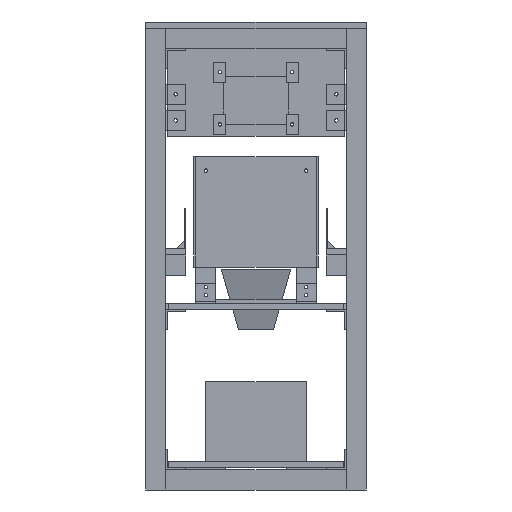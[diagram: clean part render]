
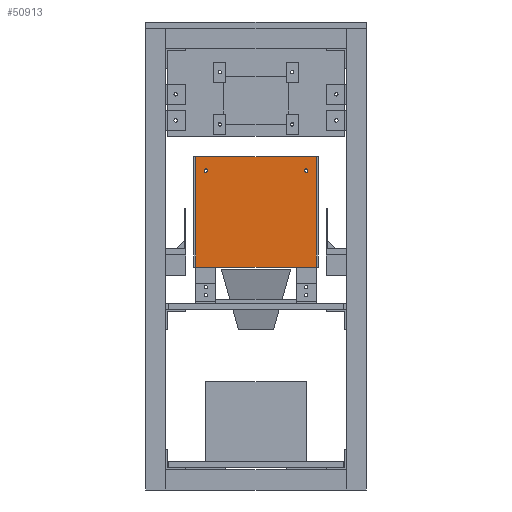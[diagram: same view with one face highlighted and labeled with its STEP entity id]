
A CAD part, front view. The second image highlights one B-rep face of the part: STEP entity #50913.
In plain terms, the highlighted planar face has unit normal (0, -1, 0).
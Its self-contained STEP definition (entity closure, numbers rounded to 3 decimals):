
#50797 = EDGE_CURVE('',#50798,#50800,#50802,.T.);
#50798 = VERTEX_POINT('',#50799);
#50799 = CARTESIAN_POINT('',(50.,44.,222.));
#50800 = VERTEX_POINT('',#50801);
#50801 = CARTESIAN_POINT('',(50.,44.,332.));
#50802 = SURFACE_CURVE('',#50803,(#50807,#50819),.PCURVE_S1.);
#50803 = LINE('',#50804,#50805);
#50804 = CARTESIAN_POINT('',(50.,44.,222.));
#50805 = VECTOR('',#50806,1.);
#50806 = DIRECTION('',(0.,0.,1.));
#50807 = PCURVE('',#50808,#50813);
#50808 = PLANE('',#50809);
#50809 = AXIS2_PLACEMENT_3D('',#50810,#50811,#50812);
#50810 = CARTESIAN_POINT('',(50.,44.,222.));
#50811 = DIRECTION('',(1.,0.,0.));
#50812 = DIRECTION('',(0.,0.,1.));
#50813 = DEFINITIONAL_REPRESENTATION('',(#50814),#50818);
#50814 = LINE('',#50815,#50816);
#50815 = CARTESIAN_POINT('',(0.,0.));
#50816 = VECTOR('',#50817,1.);
#50817 = DIRECTION('',(1.,0.));
#50818 = ( GEOMETRIC_REPRESENTATION_CONTEXT(2) 
PARAMETRIC_REPRESENTATION_CONTEXT() REPRESENTATION_CONTEXT('2D SPACE',''
  ) );
#50819 = PCURVE('',#50820,#50825);
#50820 = PLANE('',#50821);
#50821 = AXIS2_PLACEMENT_3D('',#50822,#50823,#50824);
#50822 = CARTESIAN_POINT('',(50.,44.,222.));
#50823 = DIRECTION('',(0.,1.,0.));
#50824 = DIRECTION('',(0.,0.,1.));
#50825 = DEFINITIONAL_REPRESENTATION('',(#50826),#50830);
#50826 = LINE('',#50827,#50828);
#50827 = CARTESIAN_POINT('',(0.,0.));
#50828 = VECTOR('',#50829,1.);
#50829 = DIRECTION('',(1.,0.));
#50830 = ( GEOMETRIC_REPRESENTATION_CONTEXT(2) 
PARAMETRIC_REPRESENTATION_CONTEXT() REPRESENTATION_CONTEXT('2D SPACE',''
  ) );
#50848 = PLANE('',#50849);
#50849 = AXIS2_PLACEMENT_3D('',#50850,#50851,#50852);
#50850 = CARTESIAN_POINT('',(50.,44.,222.));
#50851 = DIRECTION('',(0.,0.,1.));
#50852 = DIRECTION('',(1.,0.,0.));
#50902 = PLANE('',#50903);
#50903 = AXIS2_PLACEMENT_3D('',#50904,#50905,#50906);
#50904 = CARTESIAN_POINT('',(50.,44.,332.));
#50905 = DIRECTION('',(0.,0.,1.));
#50906 = DIRECTION('',(1.,0.,0.));
#50913 = ADVANCED_FACE('',(#50914,#50989,#51020),#50820,.F.);
#50914 = FACE_BOUND('',#50915,.F.);
#50915 = EDGE_LOOP('',(#50916,#50939,#50940,#50963));
#50916 = ORIENTED_EDGE('',*,*,#50917,.F.);
#50917 = EDGE_CURVE('',#50798,#50918,#50920,.T.);
#50918 = VERTEX_POINT('',#50919);
#50919 = CARTESIAN_POINT('',(170.,44.,222.));
#50920 = SURFACE_CURVE('',#50921,(#50925,#50932),.PCURVE_S1.);
#50921 = LINE('',#50922,#50923);
#50922 = CARTESIAN_POINT('',(50.,44.,222.));
#50923 = VECTOR('',#50924,1.);
#50924 = DIRECTION('',(1.,0.,0.));
#50925 = PCURVE('',#50820,#50926);
#50926 = DEFINITIONAL_REPRESENTATION('',(#50927),#50931);
#50927 = LINE('',#50928,#50929);
#50928 = CARTESIAN_POINT('',(0.,0.));
#50929 = VECTOR('',#50930,1.);
#50930 = DIRECTION('',(0.,1.));
#50931 = ( GEOMETRIC_REPRESENTATION_CONTEXT(2) 
PARAMETRIC_REPRESENTATION_CONTEXT() REPRESENTATION_CONTEXT('2D SPACE',''
  ) );
#50932 = PCURVE('',#50848,#50933);
#50933 = DEFINITIONAL_REPRESENTATION('',(#50934),#50938);
#50934 = LINE('',#50935,#50936);
#50935 = CARTESIAN_POINT('',(0.,0.));
#50936 = VECTOR('',#50937,1.);
#50937 = DIRECTION('',(1.,0.));
#50938 = ( GEOMETRIC_REPRESENTATION_CONTEXT(2) 
PARAMETRIC_REPRESENTATION_CONTEXT() REPRESENTATION_CONTEXT('2D SPACE',''
  ) );
#50939 = ORIENTED_EDGE('',*,*,#50797,.T.);
#50940 = ORIENTED_EDGE('',*,*,#50941,.T.);
#50941 = EDGE_CURVE('',#50800,#50942,#50944,.T.);
#50942 = VERTEX_POINT('',#50943);
#50943 = CARTESIAN_POINT('',(170.,44.,332.));
#50944 = SURFACE_CURVE('',#50945,(#50949,#50956),.PCURVE_S1.);
#50945 = LINE('',#50946,#50947);
#50946 = CARTESIAN_POINT('',(50.,44.,332.));
#50947 = VECTOR('',#50948,1.);
#50948 = DIRECTION('',(1.,0.,0.));
#50949 = PCURVE('',#50820,#50950);
#50950 = DEFINITIONAL_REPRESENTATION('',(#50951),#50955);
#50951 = LINE('',#50952,#50953);
#50952 = CARTESIAN_POINT('',(110.,0.));
#50953 = VECTOR('',#50954,1.);
#50954 = DIRECTION('',(0.,1.));
#50955 = ( GEOMETRIC_REPRESENTATION_CONTEXT(2) 
PARAMETRIC_REPRESENTATION_CONTEXT() REPRESENTATION_CONTEXT('2D SPACE',''
  ) );
#50956 = PCURVE('',#50902,#50957);
#50957 = DEFINITIONAL_REPRESENTATION('',(#50958),#50962);
#50958 = LINE('',#50959,#50960);
#50959 = CARTESIAN_POINT('',(0.,0.));
#50960 = VECTOR('',#50961,1.);
#50961 = DIRECTION('',(1.,0.));
#50962 = ( GEOMETRIC_REPRESENTATION_CONTEXT(2) 
PARAMETRIC_REPRESENTATION_CONTEXT() REPRESENTATION_CONTEXT('2D SPACE',''
  ) );
#50963 = ORIENTED_EDGE('',*,*,#50964,.F.);
#50964 = EDGE_CURVE('',#50918,#50942,#50965,.T.);
#50965 = SURFACE_CURVE('',#50966,(#50970,#50977),.PCURVE_S1.);
#50966 = LINE('',#50967,#50968);
#50967 = CARTESIAN_POINT('',(170.,44.,222.));
#50968 = VECTOR('',#50969,1.);
#50969 = DIRECTION('',(0.,0.,1.));
#50970 = PCURVE('',#50820,#50971);
#50971 = DEFINITIONAL_REPRESENTATION('',(#50972),#50976);
#50972 = LINE('',#50973,#50974);
#50973 = CARTESIAN_POINT('',(0.,120.));
#50974 = VECTOR('',#50975,1.);
#50975 = DIRECTION('',(1.,0.));
#50976 = ( GEOMETRIC_REPRESENTATION_CONTEXT(2) 
PARAMETRIC_REPRESENTATION_CONTEXT() REPRESENTATION_CONTEXT('2D SPACE',''
  ) );
#50977 = PCURVE('',#50978,#50983);
#50978 = PLANE('',#50979);
#50979 = AXIS2_PLACEMENT_3D('',#50980,#50981,#50982);
#50980 = CARTESIAN_POINT('',(170.,44.,222.));
#50981 = DIRECTION('',(1.,0.,0.));
#50982 = DIRECTION('',(0.,0.,1.));
#50983 = DEFINITIONAL_REPRESENTATION('',(#50984),#50988);
#50984 = LINE('',#50985,#50986);
#50985 = CARTESIAN_POINT('',(0.,0.));
#50986 = VECTOR('',#50987,1.);
#50987 = DIRECTION('',(1.,0.));
#50988 = ( GEOMETRIC_REPRESENTATION_CONTEXT(2) 
PARAMETRIC_REPRESENTATION_CONTEXT() REPRESENTATION_CONTEXT('2D SPACE',''
  ) );
#50989 = FACE_BOUND('',#50990,.F.);
#50990 = EDGE_LOOP('',(#50991));
#50991 = ORIENTED_EDGE('',*,*,#50992,.F.);
#50992 = EDGE_CURVE('',#50993,#50993,#50995,.T.);
#50993 = VERTEX_POINT('',#50994);
#50994 = CARTESIAN_POINT('',(60.,44.,319.7));
#50995 = SURFACE_CURVE('',#50996,(#51001,#51008),.PCURVE_S1.);
#50996 = CIRCLE('',#50997,1.7);
#50997 = AXIS2_PLACEMENT_3D('',#50998,#50999,#51000);
#50998 = CARTESIAN_POINT('',(60.,44.,318.));
#50999 = DIRECTION('',(0.,1.,0.));
#51000 = DIRECTION('',(0.,-0.,1.));
#51001 = PCURVE('',#50820,#51002);
#51002 = DEFINITIONAL_REPRESENTATION('',(#51003),#51007);
#51003 = CIRCLE('',#51004,1.7);
#51004 = AXIS2_PLACEMENT_2D('',#51005,#51006);
#51005 = CARTESIAN_POINT('',(96.,10.));
#51006 = DIRECTION('',(1.,0.));
#51007 = ( GEOMETRIC_REPRESENTATION_CONTEXT(2) 
PARAMETRIC_REPRESENTATION_CONTEXT() REPRESENTATION_CONTEXT('2D SPACE',''
  ) );
#51008 = PCURVE('',#51009,#51014);
#51009 = CYLINDRICAL_SURFACE('',#51010,1.7);
#51010 = AXIS2_PLACEMENT_3D('',#51011,#51012,#51013);
#51011 = CARTESIAN_POINT('',(60.,43.98,318.));
#51012 = DIRECTION('',(0.,1.,0.));
#51013 = DIRECTION('',(0.,-0.,1.));
#51014 = DEFINITIONAL_REPRESENTATION('',(#51015),#51019);
#51015 = LINE('',#51016,#51017);
#51016 = CARTESIAN_POINT('',(0.,0.02));
#51017 = VECTOR('',#51018,1.);
#51018 = DIRECTION('',(1.,0.));
#51019 = ( GEOMETRIC_REPRESENTATION_CONTEXT(2) 
PARAMETRIC_REPRESENTATION_CONTEXT() REPRESENTATION_CONTEXT('2D SPACE',''
  ) );
#51020 = FACE_BOUND('',#51021,.F.);
#51021 = EDGE_LOOP('',(#51022));
#51022 = ORIENTED_EDGE('',*,*,#51023,.F.);
#51023 = EDGE_CURVE('',#51024,#51024,#51026,.T.);
#51024 = VERTEX_POINT('',#51025);
#51025 = CARTESIAN_POINT('',(160.,44.,319.7));
#51026 = SURFACE_CURVE('',#51027,(#51032,#51039),.PCURVE_S1.);
#51027 = CIRCLE('',#51028,1.7);
#51028 = AXIS2_PLACEMENT_3D('',#51029,#51030,#51031);
#51029 = CARTESIAN_POINT('',(160.,44.,318.));
#51030 = DIRECTION('',(0.,1.,0.));
#51031 = DIRECTION('',(0.,-0.,1.));
#51032 = PCURVE('',#50820,#51033);
#51033 = DEFINITIONAL_REPRESENTATION('',(#51034),#51038);
#51034 = CIRCLE('',#51035,1.7);
#51035 = AXIS2_PLACEMENT_2D('',#51036,#51037);
#51036 = CARTESIAN_POINT('',(96.,110.));
#51037 = DIRECTION('',(1.,0.));
#51038 = ( GEOMETRIC_REPRESENTATION_CONTEXT(2) 
PARAMETRIC_REPRESENTATION_CONTEXT() REPRESENTATION_CONTEXT('2D SPACE',''
  ) );
#51039 = PCURVE('',#51040,#51045);
#51040 = CYLINDRICAL_SURFACE('',#51041,1.7);
#51041 = AXIS2_PLACEMENT_3D('',#51042,#51043,#51044);
#51042 = CARTESIAN_POINT('',(160.,43.98,318.));
#51043 = DIRECTION('',(0.,1.,0.));
#51044 = DIRECTION('',(0.,-0.,1.));
#51045 = DEFINITIONAL_REPRESENTATION('',(#51046),#51050);
#51046 = LINE('',#51047,#51048);
#51047 = CARTESIAN_POINT('',(0.,0.02));
#51048 = VECTOR('',#51049,1.);
#51049 = DIRECTION('',(1.,0.));
#51050 = ( GEOMETRIC_REPRESENTATION_CONTEXT(2) 
PARAMETRIC_REPRESENTATION_CONTEXT() REPRESENTATION_CONTEXT('2D SPACE',''
  ) );
